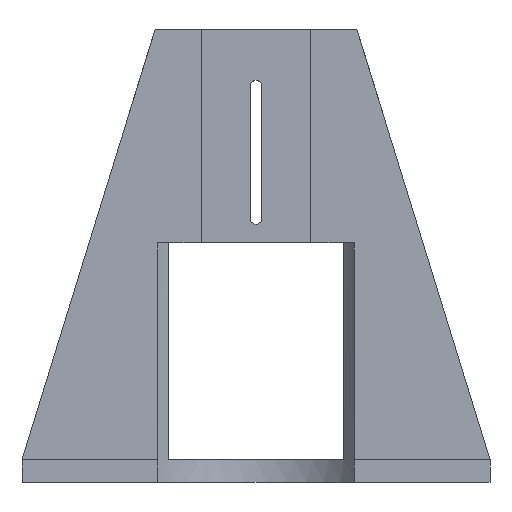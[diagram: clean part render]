
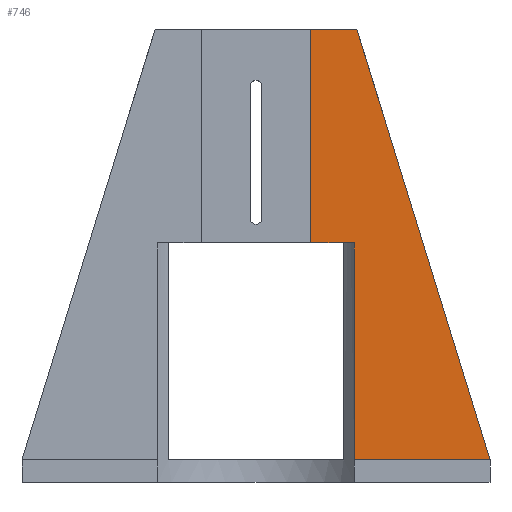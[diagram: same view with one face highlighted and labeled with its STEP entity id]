
A CAD part, front view. The second image highlights one B-rep face of the part: STEP entity #746.
In plain terms, the highlighted planar face has unit normal (0, -1, 0).
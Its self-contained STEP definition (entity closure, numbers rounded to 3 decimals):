
#49=FACE_OUTER_BOUND('',#87,.T.);
#87=EDGE_LOOP('',(#500,#501,#502,#503,#504,#505));
#132=LINE('',#1067,#226);
#134=LINE('',#1071,#228);
#135=LINE('',#1073,#229);
#136=LINE('',#1075,#230);
#137=LINE('',#1077,#231);
#138=LINE('',#1078,#232);
#226=VECTOR('',#860,10.);
#228=VECTOR('',#864,10.);
#229=VECTOR('',#865,10.);
#230=VECTOR('',#866,10.);
#231=VECTOR('',#867,10.);
#232=VECTOR('',#868,10.);
#320=VERTEX_POINT('',#1064);
#321=VERTEX_POINT('',#1066);
#322=VERTEX_POINT('',#1070);
#323=VERTEX_POINT('',#1072);
#324=VERTEX_POINT('',#1074);
#325=VERTEX_POINT('',#1076);
#390=EDGE_CURVE('',#321,#320,#132,.T.);
#392=EDGE_CURVE('',#320,#322,#134,.T.);
#393=EDGE_CURVE('',#323,#322,#135,.T.);
#394=EDGE_CURVE('',#324,#323,#136,.T.);
#395=EDGE_CURVE('',#324,#325,#137,.T.);
#396=EDGE_CURVE('',#325,#321,#138,.T.);
#500=ORIENTED_EDGE('',*,*,#392,.T.);
#501=ORIENTED_EDGE('',*,*,#393,.F.);
#502=ORIENTED_EDGE('',*,*,#394,.F.);
#503=ORIENTED_EDGE('',*,*,#395,.T.);
#504=ORIENTED_EDGE('',*,*,#396,.T.);
#505=ORIENTED_EDGE('',*,*,#390,.T.);
#713=PLANE('',#799);
#746=ADVANCED_FACE('',(#49),#713,.T.);
#799=AXIS2_PLACEMENT_3D('',#1069,#862,#863);
#860=DIRECTION('',(0.,0.,-1.));
#862=DIRECTION('center_axis',(0.,-1.,0.));
#863=DIRECTION('ref_axis',(0.,0.,-1.));
#864=DIRECTION('',(1.,0.,0.));
#865=DIRECTION('',(0.,0.,1.));
#866=DIRECTION('',(-1.,0.,0.));
#867=DIRECTION('',(-0.296,0.,0.955));
#868=DIRECTION('',(-1.,0.,0.));
#1064=CARTESIAN_POINT('',(214.55,169.5,115.3));
#1066=CARTESIAN_POINT('',(214.55,169.5,171.85));
#1067=CARTESIAN_POINT('',(214.55,169.5,171.85));
#1069=CARTESIAN_POINT('Origin',(200.,169.5,114.85));
#1070=CARTESIAN_POINT('',(226.,169.5,115.3));
#1071=CARTESIAN_POINT('',(174.781,169.5,115.3));
#1072=CARTESIAN_POINT('',(226.,169.5,57.85));
#1073=CARTESIAN_POINT('',(226.,169.5,51.85));
#1074=CARTESIAN_POINT('',(262.,169.5,57.85));
#1075=CARTESIAN_POINT('',(200.,169.5,57.85));
#1076=CARTESIAN_POINT('',(226.725,169.5,171.85));
#1077=CARTESIAN_POINT('',(262.,169.5,57.85));
#1078=CARTESIAN_POINT('',(226.725,169.5,171.85));
